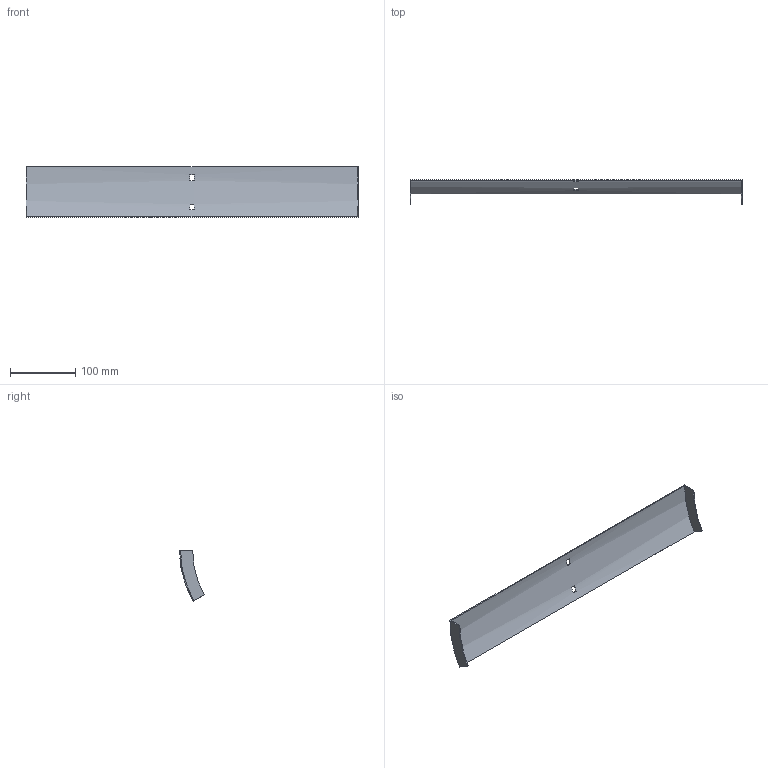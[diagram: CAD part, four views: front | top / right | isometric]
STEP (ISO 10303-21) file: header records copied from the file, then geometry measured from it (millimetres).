
FILE_DESCRIPTION (( 'STEP AP214' ), '1' );
FILE_NAME ('35N1B500.step', '2025-02-21T09:12:09', ( '' ), ( '' ), 'SwSTEP 2.0', 'SolidWorks 2023', '' );
FILE_SCHEMA (( 'AUTOMOTIVE_DESIGN' ));
Length unit declared in the file: millimetre
Products named in the file (1): 35N1B500
Bounding box: 507 x 37.89 x 76.75 mm (x, y, z)
Volume: 64796.3 mm3; surface area: 88331.5 mm2
Topology: 1 solids, 1 shells, 18 faces, 48 edges, 32 vertices
Faces by surface type: plane 14, cylinder 4
Entity records: 599 total; most frequent: DIRECTION 102, CARTESIAN_POINT 99, ORIENTED_EDGE 96, EDGE_CURVE 48, AXIS2_PLACEMENT_3D 35, LINE 32, VECTOR 32, VERTEX_POINT 32
